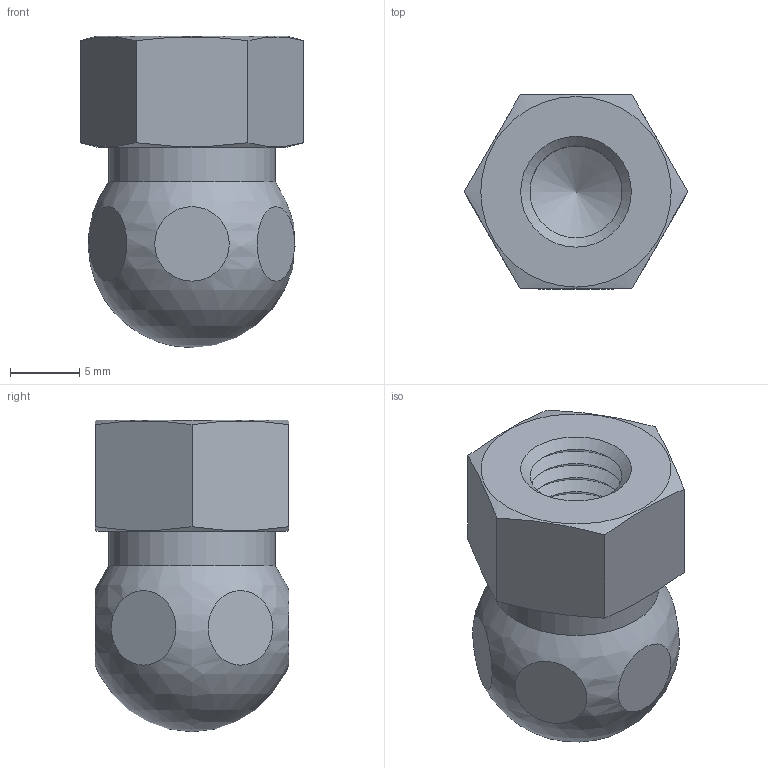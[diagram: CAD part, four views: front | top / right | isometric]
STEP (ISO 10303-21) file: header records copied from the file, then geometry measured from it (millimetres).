
FILE_DESCRIPTION(/* description */ (''),/* implementation_level */ '2;1');
FILE_NAME(/* name */ 'Z:\WEBSITE\DREAMWEAVER\MiniTec\Products\Modular_Workstations\CAD\Step\21.2506 THREADED BALL HEAD M8.stp',/* time_stamp */ '2020-07-21T14:01:13-04:00',/* author */ ('amoles'),/* organization */ (''),/* preprocessor_version */ 'ST-DEVELOPER v18',/* originating_system */ 'Autodesk Inventor 2020',/* authorisation */ '');
FILE_SCHEMA (('AUTOMOTIVE_DESIGN { 1 0 10303 214 3 1 1 }'));
Length unit declared in the file: millimetre
Products named in the file (1): 21.2506 THREADED BALL HEAD M8
Bounding box: 16.17 x 14 x 22.5 mm (x, y, z)
Volume: 2552.5 mm3; surface area: 1721.1 mm2
Topology: 1 solids, 1 shells, 41 faces, 98 edges, 68 vertices
Faces by surface type: cone 21, plane 15, sphere 3, cylinder 2
Full cylindrical faces by diameter (mm): 6.647 x1, 12 x1
Entity records: 1307 total; most frequent: DIRECTION 247, CARTESIAN_POINT 206, ORIENTED_EDGE 192, AXIS2_PLACEMENT_3D 109, EDGE_CURVE 96, VERTEX_POINT 68, CIRCLE 67, EDGE_LOOP 52
